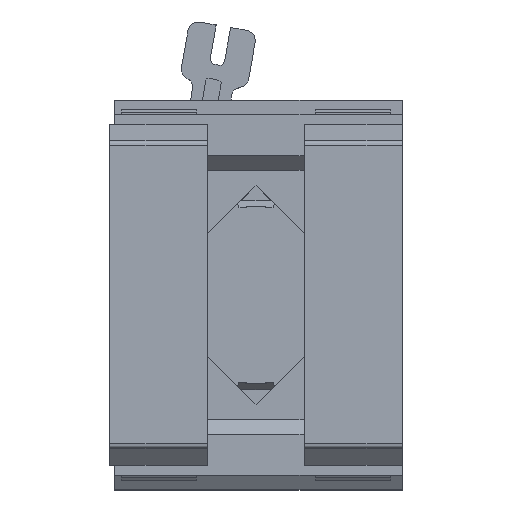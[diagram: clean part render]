
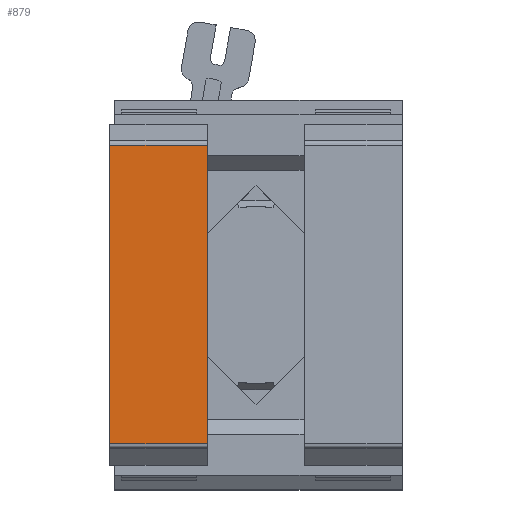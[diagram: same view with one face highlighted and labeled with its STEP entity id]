
A CAD part, top view. The second image highlights one B-rep face of the part: STEP entity #879.
In plain terms, the highlighted planar face has unit normal (0, 0, 1).
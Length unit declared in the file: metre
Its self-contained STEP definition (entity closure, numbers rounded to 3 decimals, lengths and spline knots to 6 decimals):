
#818=CARTESIAN_POINT('',(0.085,0.015325,0.0265));
#819=VERTEX_POINT('',#818);
#822=CARTESIAN_POINT('',(0.095,0.015325,0.0265));
#823=DIRECTION('',(-1.,0.,0.));
#824=VECTOR('',#823,1.);
#825=LINE('',#822,#824);
#826=CARTESIAN_POINT('',(0.095,0.015325,0.0265));
#827=VERTEX_POINT('',#826);
#828=EDGE_CURVE('',#827,#819,#825,.T.);
#849=CARTESIAN_POINT('',(0.095,0.015325,0.0265));
#850=DIRECTION('',(0.,0.,1.));
#851=DIRECTION('',(-1.,0.,0.));
#852=AXIS2_PLACEMENT_3D('',#849,#850,#851);
#853=PLANE('',#852);
#854=CARTESIAN_POINT('',(0.085,0.015325,0.0265));
#855=DIRECTION('',(0.,-1.,0.));
#856=VECTOR('',#855,1.);
#857=LINE('',#854,#856);
#858=CARTESIAN_POINT('',(0.085,-0.015325,0.0265));
#859=VERTEX_POINT('',#858);
#860=EDGE_CURVE('',#819,#859,#857,.T.);
#861=ORIENTED_EDGE('',*,*,#860,.T.);
#862=CARTESIAN_POINT('',(0.095,-0.015325,0.0265));
#863=DIRECTION('',(-1.,0.,0.));
#864=VECTOR('',#863,1.);
#865=LINE('',#862,#864);
#866=CARTESIAN_POINT('',(0.095,-0.015325,0.0265));
#867=VERTEX_POINT('',#866);
#868=EDGE_CURVE('',#867,#859,#865,.T.);
#869=ORIENTED_EDGE('',*,*,#868,.F.);
#870=CARTESIAN_POINT('',(0.095,-0.015325,0.0265));
#871=DIRECTION('',(0.,1.,0.));
#872=VECTOR('',#871,1.);
#873=LINE('',#870,#872);
#874=EDGE_CURVE('',#867,#827,#873,.T.);
#875=ORIENTED_EDGE('',*,*,#874,.T.);
#876=ORIENTED_EDGE('',*,*,#828,.T.);
#877=EDGE_LOOP('',(#861,#869,#875,#876));
#878=FACE_BOUND('',#877,.T.);
#879=ADVANCED_FACE('',(#878),#853,.T.);
